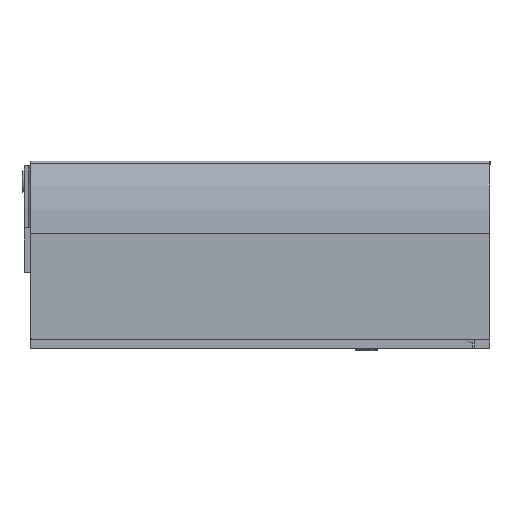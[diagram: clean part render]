
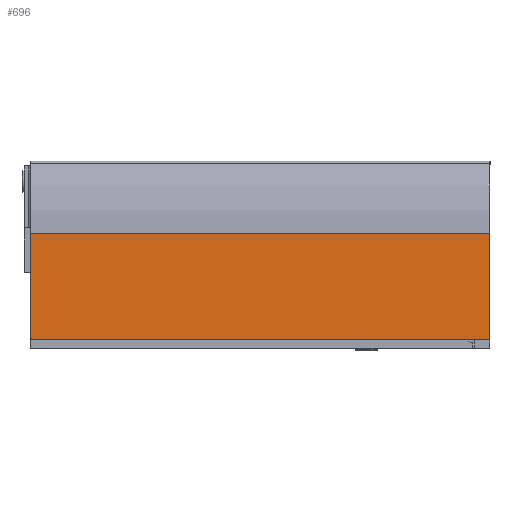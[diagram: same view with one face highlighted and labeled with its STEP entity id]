
A CAD part, left-side view. The second image highlights one B-rep face of the part: STEP entity #696.
In plain terms, the highlighted planar face has unit normal (-1, 0, 0).
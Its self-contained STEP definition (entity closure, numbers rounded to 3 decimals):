
#180 = FACE_OUTER_BOUND ( 'NONE', #266, .T. ) ;
#266 = EDGE_LOOP ( 'NONE', ( #835, #834, #833, #832, #831, #830 ) ) ;
#696 = ADVANCED_FACE ( 'NONE', ( #180 ), #1460, .T. ) ;
#830 = ORIENTED_EDGE ( 'NONE', *, *, #2495, .T. ) ;
#831 = ORIENTED_EDGE ( 'NONE', *, *, #2570, .T. ) ;
#832 = ORIENTED_EDGE ( 'NONE', *, *, #2574, .T. ) ;
#833 = ORIENTED_EDGE ( 'NONE', *, *, #2573, .F. ) ;
#834 = ORIENTED_EDGE ( 'NONE', *, *, #2572, .F. ) ;
#835 = ORIENTED_EDGE ( 'NONE', *, *, #2564, .T. ) ;
#1094 = DIRECTION ( 'NONE',  ( 0., 1., 0. ) ) ;
#1097 = DIRECTION ( 'NONE',  ( -1., 0., 0. ) ) ;
#1098 = DIRECTION ( 'NONE',  ( 0., 0., 1. ) ) ;
#1100 = CARTESIAN_POINT ( 'NONE',  ( -2.3, 297., -13.5 ) ) ;
#1101 = DIRECTION ( 'NONE',  ( 0., -1., 0. ) ) ;
#1102 = CARTESIAN_POINT ( 'NONE',  ( -2.3, 295.999, -12.06 ) ) ;
#1107 = DIRECTION ( 'NONE',  ( 0., -0.94, -0.342 ) ) ;
#1108 = CARTESIAN_POINT ( 'NONE',  ( -2.3, 144.577, 55.168 ) ) ;
#1110 = CARTESIAN_POINT ( 'NONE',  ( -2.3, 294.97, -13.5 ) ) ;
#1123 = DIRECTION ( 'NONE',  ( 0., 0., 1. ) ) ;
#1139 = CARTESIAN_POINT ( 'NONE',  ( -2.3, 0., -13.5 ) ) ;
#1355 = DIRECTION ( 'NONE',  ( 0., -1., 0. ) ) ;
#1357 = CARTESIAN_POINT ( 'NONE',  ( -2.3, 144.577, -13.5 ) ) ;
#1428 = DIRECTION ( 'NONE',  ( 0., 1., 0. ) ) ;
#1430 = DIRECTION ( 'NONE',  ( -1., 0., 0. ) ) ;
#1451 = CARTESIAN_POINT ( 'NONE',  ( -2.3, 144.577, -13.5 ) ) ;
#1460 = PLANE ( 'NONE',  #2078 ) ;
#1623 = CARTESIAN_POINT ( 'NONE',  ( -2.3, 0., -13.5 ) ) ;
#1625 = CARTESIAN_POINT ( 'NONE',  ( -2.3, 294.97, -13.5 ) ) ;
#1644 = CARTESIAN_POINT ( 'NONE',  ( -2.3, 0., 55.168 ) ) ;
#1653 = CARTESIAN_POINT ( 'NONE',  ( -2.3, 297., 55.168 ) ) ;
#1655 = CARTESIAN_POINT ( 'NONE',  ( -2.3, 297., -12.06 ) ) ;
#1656 = CARTESIAN_POINT ( 'NONE',  ( -2.3, 296.341, -13.001 ) ) ;
#1862 = VERTEX_POINT ( 'NONE', #1656 ) ;
#1863 = VERTEX_POINT ( 'NONE', #1655 ) ;
#1864 = VERTEX_POINT ( 'NONE', #1653 ) ;
#1872 = VERTEX_POINT ( 'NONE', #1644 ) ;
#1886 = VERTEX_POINT ( 'NONE', #1625 ) ;
#1887 = VERTEX_POINT ( 'NONE', #1623 ) ;
#1976 = AXIS2_PLACEMENT_3D ( 'NONE', #1102, #1097, #1094 ) ;
#2078 = AXIS2_PLACEMENT_3D ( 'NONE', #1451, #1430, #1428 ) ;
#2337 = CIRCLE ( 'NONE', #1976, 1.001 ) ;
#2341 = VECTOR ( 'NONE', #1098, 1000. ) ;
#2342 = LINE ( 'NONE', #1100, #2341 ) ;
#2345 = VECTOR ( 'NONE', #1101, 1000. ) ;
#2349 = VECTOR ( 'NONE', #1107, 1000. ) ;
#2352 = LINE ( 'NONE', #1108, #2345 ) ;
#2355 = LINE ( 'NONE', #1110, #2349 ) ;
#2362 = LINE ( 'NONE', #1139, #2377 ) ;
#2377 = VECTOR ( 'NONE', #1123, 1000. ) ;
#2436 = VECTOR ( 'NONE', #1355, 1000. ) ;
#2437 = LINE ( 'NONE', #1357, #2436 ) ;
#2495 = EDGE_CURVE ( 'NONE', #1886, #1887, #2437, .T. ) ;
#2564 = EDGE_CURVE ( 'NONE', #1887, #1872, #2362, .T. ) ;
#2570 = EDGE_CURVE ( 'NONE', #1862, #1886, #2355, .T. ) ;
#2572 = EDGE_CURVE ( 'NONE', #1864, #1872, #2352, .T. ) ;
#2573 = EDGE_CURVE ( 'NONE', #1863, #1864, #2342, .T. ) ;
#2574 = EDGE_CURVE ( 'NONE', #1863, #1862, #2337, .T. ) ;
